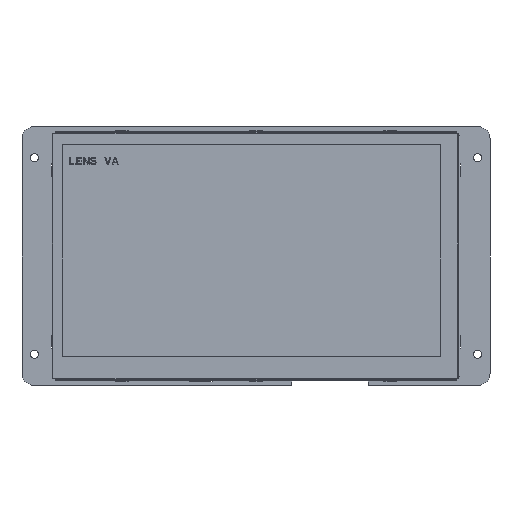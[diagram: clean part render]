
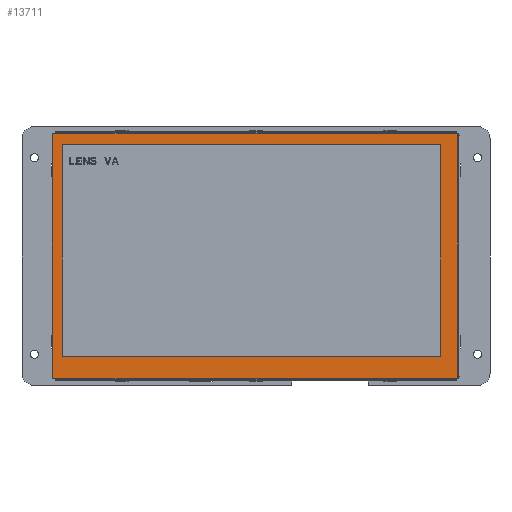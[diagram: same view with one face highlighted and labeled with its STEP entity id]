
A CAD part, front view. The second image highlights one B-rep face of the part: STEP entity #13711.
In plain terms, the highlighted planar face has unit normal (0, -1, 0) as drawn and (0, 1, 0) by its records, which use the part's own axes.
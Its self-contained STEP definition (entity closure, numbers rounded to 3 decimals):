
#11922=DIRECTION('',(0.,0.,1.));
#11923=VECTOR('',#11922,99.7);
#11924=CARTESIAN_POINT('',(-82.3,1.775,-49.85));
#11925=LINE('',#11924,#11923);
#11926=DIRECTION('',(-1.,0.,0.));
#11927=VECTOR('',#11926,164.6);
#11928=CARTESIAN_POINT('',(82.3,1.775,-49.85));
#11929=LINE('',#11928,#11927);
#11930=DIRECTION('',(0.,0.,-1.));
#11931=VECTOR('',#11930,99.7);
#11932=CARTESIAN_POINT('',(82.3,1.775,49.85));
#11933=LINE('',#11932,#11931);
#11934=DIRECTION('',(1.,0.,0.));
#11935=VECTOR('',#11934,164.6);
#11936=CARTESIAN_POINT('',(-82.3,1.775,49.85));
#11937=LINE('',#11936,#11935);
#11938=DIRECTION('',(0.,0.,1.));
#11939=VECTOR('',#11938,85.92);
#11940=CARTESIAN_POINT('',(-78.53,1.775,-45.22));
#11941=LINE('',#11940,#11939);
#11942=DIRECTION('',(1.,0.,0.));
#11943=VECTOR('',#11942,154.08);
#11944=CARTESIAN_POINT('',(-78.53,1.775,40.7));
#11945=LINE('',#11944,#11943);
#11946=DIRECTION('',(0.,0.,-1.));
#11947=VECTOR('',#11946,85.92);
#11948=CARTESIAN_POINT('',(75.55,1.775,40.7));
#11949=LINE('',#11948,#11947);
#11950=DIRECTION('',(-1.,0.,0.));
#11951=VECTOR('',#11950,154.08);
#11952=CARTESIAN_POINT('',(75.55,1.775,-45.22));
#11953=LINE('',#11952,#11951);
#13194=CARTESIAN_POINT('',(-82.3,1.775,-49.85));
#13195=CARTESIAN_POINT('',(-82.3,1.775,49.85));
#13196=VERTEX_POINT('',#13194);
#13197=VERTEX_POINT('',#13195);
#13198=CARTESIAN_POINT('',(82.3,1.775,49.85));
#13199=VERTEX_POINT('',#13198);
#13200=CARTESIAN_POINT('',(82.3,1.775,-49.85));
#13201=VERTEX_POINT('',#13200);
#13410=CARTESIAN_POINT('',(-78.53,1.775,-45.22));
#13411=CARTESIAN_POINT('',(-78.53,1.775,40.7));
#13412=VERTEX_POINT('',#13410);
#13413=VERTEX_POINT('',#13411);
#13414=CARTESIAN_POINT('',(75.55,1.775,40.7));
#13415=VERTEX_POINT('',#13414);
#13416=CARTESIAN_POINT('',(75.55,1.775,-45.22));
#13417=VERTEX_POINT('',#13416);
#13690=CARTESIAN_POINT('',(0.,1.775,0.));
#13691=DIRECTION('',(0.,1.,0.));
#13692=DIRECTION('',(1.,0.,0.));
#13693=AXIS2_PLACEMENT_3D('',#13690,#13691,#13692);
#13694=PLANE('',#13693);
#13695=ORIENTED_EDGE('',*,*,#13642,.F.);
#13696=ORIENTED_EDGE('',*,*,#13657,.F.);
#13697=ORIENTED_EDGE('',*,*,#13671,.F.);
#13698=ORIENTED_EDGE('',*,*,#13684,.F.);
#13699=EDGE_LOOP('',(#13695,#13696,#13697,#13698));
#13700=FACE_OUTER_BOUND('',#13699,.F.);
#13702=ORIENTED_EDGE('',*,*,#13701,.T.);
#13704=ORIENTED_EDGE('',*,*,#13703,.T.);
#13706=ORIENTED_EDGE('',*,*,#13705,.T.);
#13708=ORIENTED_EDGE('',*,*,#13707,.T.);
#13709=EDGE_LOOP('',(#13702,#13704,#13706,#13708));
#13710=FACE_BOUND('',#13709,.F.);
#13642=EDGE_CURVE('',#13196,#13197,#11925,.T.);
#13657=EDGE_CURVE('',#13201,#13196,#11929,.T.);
#13671=EDGE_CURVE('',#13199,#13201,#11933,.T.);
#13684=EDGE_CURVE('',#13197,#13199,#11937,.T.);
#13701=EDGE_CURVE('',#13412,#13413,#11941,.T.);
#13703=EDGE_CURVE('',#13413,#13415,#11945,.T.);
#13705=EDGE_CURVE('',#13415,#13417,#11949,.T.);
#13707=EDGE_CURVE('',#13417,#13412,#11953,.T.);
#13711=ADVANCED_FACE('',(#13700,#13710),#13694,.T.);
